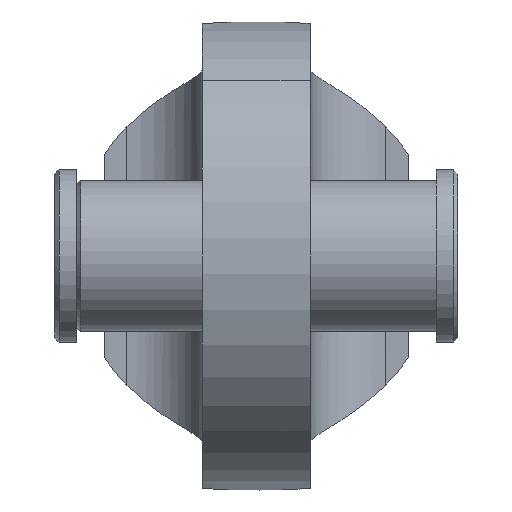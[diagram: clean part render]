
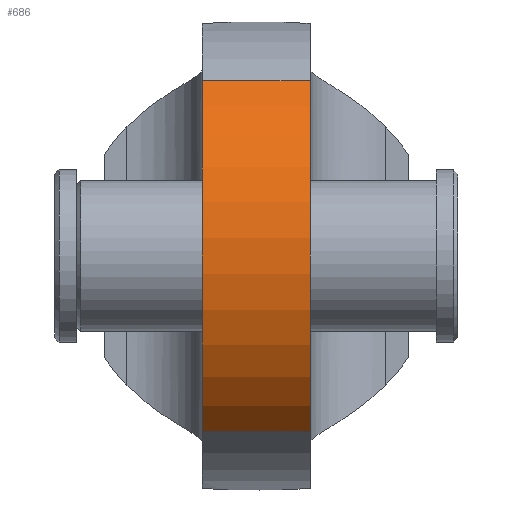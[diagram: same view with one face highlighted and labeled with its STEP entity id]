
A CAD part, left-side view. The second image highlights one B-rep face of the part: STEP entity #686.
In plain terms, the highlighted cylindrical face has radius 104 mm (diameter 208 mm), a partial arc.
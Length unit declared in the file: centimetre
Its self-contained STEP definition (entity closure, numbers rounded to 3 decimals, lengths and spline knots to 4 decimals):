
#19=LINE('',#1236,#39);
#20=LINE('',#1241,#40);
#39=VECTOR('',#876,5.);
#40=VECTOR('',#881,5.);
#82=CYLINDRICAL_SURFACE('',#758,10.4);
#147=FACE_OUTER_BOUND('',#205,.T.);
#205=EDGE_LOOP('',(#491,#492,#493,#494));
#278=CIRCLE('',#759,10.4);
#279=CIRCLE('',#760,10.4);
#327=VERTEX_POINT('',#1232);
#328=VERTEX_POINT('',#1234);
#329=VERTEX_POINT('',#1238);
#330=VERTEX_POINT('',#1240);
#394=EDGE_CURVE('',#328,#327,#19,.T.);
#396=EDGE_CURVE('',#330,#329,#20,.T.);
#398=EDGE_CURVE('',#327,#329,#278,.T.);
#399=EDGE_CURVE('',#330,#328,#279,.T.);
#491=ORIENTED_EDGE('',*,*,#398,.F.);
#492=ORIENTED_EDGE('',*,*,#394,.F.);
#493=ORIENTED_EDGE('',*,*,#399,.F.);
#494=ORIENTED_EDGE('',*,*,#396,.T.);
#686=ADVANCED_FACE('',(#147),#82,.T.);
#758=AXIS2_PLACEMENT_3D('',#1243,#884,#885);
#759=AXIS2_PLACEMENT_3D('',#1244,#886,#887);
#760=AXIS2_PLACEMENT_3D('',#1245,#888,#889);
#876=DIRECTION('',(0.,1.,0.));
#881=DIRECTION('',(0.,1.,0.));
#884=DIRECTION('center_axis',(0.,1.,0.));
#885=DIRECTION('ref_axis',(0.623,0.,0.782));
#886=DIRECTION('center_axis',(0.,1.,0.));
#887=DIRECTION('ref_axis',(0.623,0.,0.782));
#888=DIRECTION('center_axis',(0.,-1.,0.));
#889=DIRECTION('ref_axis',(0.623,0.,0.782));
#1232=CARTESIAN_POINT('',(-7.779,2.5,-8.1353));
#1234=CARTESIAN_POINT('',(-7.779,-2.5,-8.1353));
#1236=CARTESIAN_POINT('',(-7.779,0.,-8.1353));
#1238=CARTESIAN_POINT('',(-7.779,2.5,8.1353));
#1240=CARTESIAN_POINT('',(-7.779,-2.5,8.1353));
#1241=CARTESIAN_POINT('',(-7.779,0.,8.1353));
#1243=CARTESIAN_POINT('Origin',(-1.3,0.,0.));
#1244=CARTESIAN_POINT('Origin',(-1.3,2.5,0.));
#1245=CARTESIAN_POINT('Origin',(-1.3,-2.5,0.));
